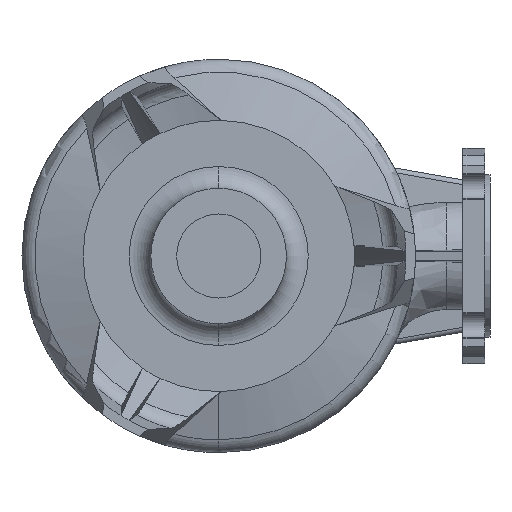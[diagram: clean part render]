
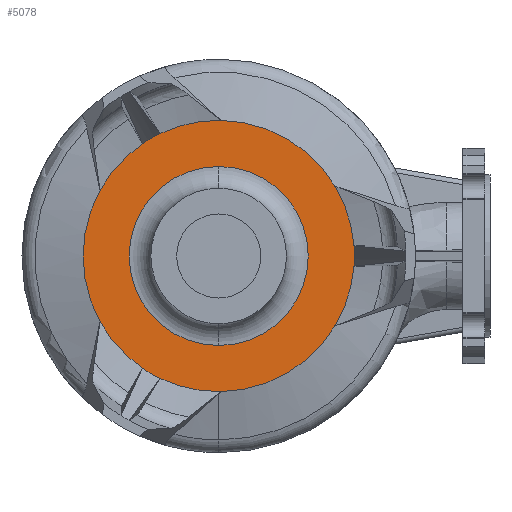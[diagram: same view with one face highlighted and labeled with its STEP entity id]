
A CAD part, front view. The second image highlights one B-rep face of the part: STEP entity #5078.
In plain terms, the highlighted planar face has unit normal (0, -1, 0).
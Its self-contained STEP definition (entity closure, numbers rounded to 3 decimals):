
#95 = EDGE_CURVE ( 'NONE', #7606, #4360, #3509, .T. ) ;
#160 = EDGE_CURVE ( 'NONE', #3057, #7620, #197, .T. ) ;
#197 = CIRCLE ( 'NONE', #5403, 100. ) ;
#241 = CIRCLE ( 'NONE', #7197, 100. ) ;
#257 = CARTESIAN_POINT ( 'NONE',  ( 82.256, -294.025, -51.519 ) ) ;
#329 = AXIS2_PLACEMENT_3D ( 'NONE', #1058, #4339, #10225 ) ;
#338 = PLANE ( 'NONE',  #9262 ) ;
#476 = CARTESIAN_POINT ( 'NONE',  ( -3.452, -294.025, 0. ) ) ;
#525 = CARTESIAN_POINT ( 'NONE',  ( -90.923, -294.025, -48.465 ) ) ;
#600 = CARTESIAN_POINT ( 'NONE',  ( -46.831, -294.025, 90.101 ) ) ;
#608 = EDGE_CURVE ( 'NONE', #4928, #3944, #8526, .T. ) ;
#674 = EDGE_LOOP ( 'NONE', ( #5907, #1671, #9588, #3363, #4002, #5503, #8001, #1332, #7034, #9216, #8118, #10222, #1456 ) ) ;
#708 = CIRCLE ( 'NONE', #1056, 100. ) ;
#773 = CARTESIAN_POINT ( 'NONE',  ( 96.268, -294.025, 7.483 ) ) ;
#785 = CARTESIAN_POINT ( 'NONE',  ( 96.268, -294.025, -7.483 ) ) ;
#1026 = CIRCLE ( 'NONE', #329, 66. ) ;
#1056 = AXIS2_PLACEMENT_3D ( 'NONE', #3914, #2423, #3193 ) ;
#1058 = CARTESIAN_POINT ( 'NONE',  ( -3.452, -294.025, 0. ) ) ;
#1144 = EDGE_CURVE ( 'NONE', #4952, #6709, #3181, .T. ) ;
#1225 = DIRECTION ( 'NONE',  ( 0., -1., 0. ) ) ;
#1245 = CIRCLE ( 'NONE', #10597, 100. ) ;
#1284 = CARTESIAN_POINT ( 'NONE',  ( -3.452, -294.025, 0. ) ) ;
#1332 = ORIENTED_EDGE ( 'NONE', *, *, #1144, .T. ) ;
#1348 = DIRECTION ( 'NONE',  ( 0., 0., 1. ) ) ;
#1381 = DIRECTION ( 'NONE',  ( 0., 1., 0. ) ) ;
#1410 = VERTEX_POINT ( 'NONE', #3821 ) ;
#1452 = CARTESIAN_POINT ( 'NONE',  ( -3.452, -294.025, 0. ) ) ;
#1454 = AXIS2_PLACEMENT_3D ( 'NONE', #476, #3805, #1348 ) ;
#1456 = ORIENTED_EDGE ( 'NONE', *, *, #6136, .T. ) ;
#1529 = DIRECTION ( 'NONE',  ( 0., 0., 1. ) ) ;
#1671 = ORIENTED_EDGE ( 'NONE', *, *, #160, .F. ) ;
#1801 = VERTEX_POINT ( 'NONE', #773 ) ;
#2095 = DIRECTION ( 'NONE',  ( 0., -1., 0. ) ) ;
#2169 = CARTESIAN_POINT ( 'NONE',  ( -3.452, -294.025, 66. ) ) ;
#2388 = CARTESIAN_POINT ( 'NONE',  ( -3.452, -294.025, 0. ) ) ;
#2423 = DIRECTION ( 'NONE',  ( 0., 1., 0. ) ) ;
#2730 = EDGE_CURVE ( 'NONE', #3057, #5825, #4892, .T. ) ;
#3004 = ORIENTED_EDGE ( 'NONE', *, *, #4129, .T. ) ;
#3057 = VERTEX_POINT ( 'NONE', #7006 ) ;
#3137 = AXIS2_PLACEMENT_3D ( 'NONE', #6042, #5935, #6715 ) ;
#3181 = CIRCLE ( 'NONE', #4916, 100. ) ;
#3193 = DIRECTION ( 'NONE',  ( 0., 0., -1. ) ) ;
#3198 = CIRCLE ( 'NONE', #1454, 100. ) ;
#3216 = EDGE_CURVE ( 'NONE', #7620, #1801, #708, .T. ) ;
#3247 = CARTESIAN_POINT ( 'NONE',  ( 82.256, -294.025, 51.519 ) ) ;
#3363 = ORIENTED_EDGE ( 'NONE', *, *, #7850, .T. ) ;
#3404 = AXIS2_PLACEMENT_3D ( 'NONE', #1452, #7432, #8991 ) ;
#3509 = CIRCLE ( 'NONE', #10416, 100. ) ;
#3528 = DIRECTION ( 'NONE',  ( 0., 0., -1. ) ) ;
#3679 = AXIS2_PLACEMENT_3D ( 'NONE', #1284, #1225, #3528 ) ;
#3777 = DIRECTION ( 'NONE',  ( 0., 0., -1. ) ) ;
#3787 = DIRECTION ( 'NONE',  ( 0., 0., -1. ) ) ;
#3805 = DIRECTION ( 'NONE',  ( 0., -1., 0. ) ) ;
#3821 = CARTESIAN_POINT ( 'NONE',  ( -3.452, -294.025, -66. ) ) ;
#3914 = CARTESIAN_POINT ( 'NONE',  ( -3.452, -294.025, 0. ) ) ;
#3944 = VERTEX_POINT ( 'NONE', #257 ) ;
#4002 = ORIENTED_EDGE ( 'NONE', *, *, #8254, .T. ) ;
#4030 = DIRECTION ( 'NONE',  ( 0., 1., 0. ) ) ;
#4129 = EDGE_CURVE ( 'NONE', #1410, #10431, #9117, .T. ) ;
#4281 = FACE_OUTER_BOUND ( 'NONE', #674, .T. ) ;
#4292 = CIRCLE ( 'NONE', #6532, 100. ) ;
#4339 = DIRECTION ( 'NONE',  ( 0., 1., 0. ) ) ;
#4360 = VERTEX_POINT ( 'NONE', #6782 ) ;
#4390 = CARTESIAN_POINT ( 'NONE',  ( -59.792, -294.025, -82.618 ) ) ;
#4392 = AXIS2_PLACEMENT_3D ( 'NONE', #4968, #5019, #8164 ) ;
#4539 = EDGE_CURVE ( 'NONE', #3944, #8867, #4292, .T. ) ;
#4547 = CARTESIAN_POINT ( 'NONE',  ( -3.452, -294.025, 0. ) ) ;
#4746 = DIRECTION ( 'NONE',  ( 0., -1., 0. ) ) ;
#4881 = CARTESIAN_POINT ( 'NONE',  ( -3.452, -294.025, 0. ) ) ;
#4892 = CIRCLE ( 'NONE', #3679, 100. ) ;
#4916 = AXIS2_PLACEMENT_3D ( 'NONE', #7802, #10233, #8505 ) ;
#4928 = VERTEX_POINT ( 'NONE', #785 ) ;
#4946 = VERTEX_POINT ( 'NONE', #6607 ) ;
#4952 = VERTEX_POINT ( 'NONE', #525 ) ;
#4968 = CARTESIAN_POINT ( 'NONE',  ( -3.452, -294.025, 0. ) ) ;
#5019 = DIRECTION ( 'NONE',  ( 0., 1., 0. ) ) ;
#5078 = ADVANCED_FACE ( 'NONE', ( #8444, #4281 ), #338, .F. ) ;
#5180 = CARTESIAN_POINT ( 'NONE',  ( -69.452, -294.025, 0. ) ) ;
#5403 = AXIS2_PLACEMENT_3D ( 'NONE', #5563, #1381, #3787 ) ;
#5503 = ORIENTED_EDGE ( 'NONE', *, *, #95, .T. ) ;
#5563 = CARTESIAN_POINT ( 'NONE',  ( -3.452, -294.025, 0. ) ) ;
#5795 = CIRCLE ( 'NONE', #4392, 100. ) ;
#5825 = VERTEX_POINT ( 'NONE', #9072 ) ;
#5907 = ORIENTED_EDGE ( 'NONE', *, *, #3216, .F. ) ;
#5935 = DIRECTION ( 'NONE',  ( 0., -1., 0. ) ) ;
#5953 = EDGE_CURVE ( 'NONE', #4946, #8867, #241, .T. ) ;
#6042 = CARTESIAN_POINT ( 'NONE',  ( -3.452, -294.025, 0. ) ) ;
#6136 = EDGE_CURVE ( 'NONE', #4928, #1801, #3198, .T. ) ;
#6409 = CIRCLE ( 'NONE', #8318, 100. ) ;
#6532 = AXIS2_PLACEMENT_3D ( 'NONE', #4547, #9678, #7155 ) ;
#6607 = CARTESIAN_POINT ( 'NONE',  ( -46.831, -294.025, -90.101 ) ) ;
#6709 = VERTEX_POINT ( 'NONE', #4390 ) ;
#6715 = DIRECTION ( 'NONE',  ( 0., 0., 1. ) ) ;
#6730 = CARTESIAN_POINT ( 'NONE',  ( -59.792, -294.025, 82.618 ) ) ;
#6782 = CARTESIAN_POINT ( 'NONE',  ( -90.923, -294.025, 48.465 ) ) ;
#6794 = ORIENTED_EDGE ( 'NONE', *, *, #7723, .T. ) ;
#6913 = CARTESIAN_POINT ( 'NONE',  ( -3.452, -294.025, 0. ) ) ;
#6957 = EDGE_CURVE ( 'NONE', #6709, #4946, #7817, .T. ) ;
#7006 = CARTESIAN_POINT ( 'NONE',  ( -1.689, -294.025, 99.984 ) ) ;
#7034 = ORIENTED_EDGE ( 'NONE', *, *, #6957, .T. ) ;
#7155 = DIRECTION ( 'NONE',  ( 0., 0., -1. ) ) ;
#7197 = AXIS2_PLACEMENT_3D ( 'NONE', #6913, #8470, #7510 ) ;
#7432 = DIRECTION ( 'NONE',  ( 0., 1., 0. ) ) ;
#7510 = DIRECTION ( 'NONE',  ( 0., 0., -1. ) ) ;
#7606 = VERTEX_POINT ( 'NONE', #6730 ) ;
#7620 = VERTEX_POINT ( 'NONE', #3247 ) ;
#7723 = EDGE_CURVE ( 'NONE', #10431, #1410, #1026, .T. ) ;
#7789 = DIRECTION ( 'NONE',  ( 0., 1., 0. ) ) ;
#7802 = CARTESIAN_POINT ( 'NONE',  ( -3.452, -294.025, 0. ) ) ;
#7817 = CIRCLE ( 'NONE', #3137, 100. ) ;
#7850 = EDGE_CURVE ( 'NONE', #5825, #9091, #6409, .T. ) ;
#7934 = EDGE_CURVE ( 'NONE', #4952, #4360, #5795, .T. ) ;
#8001 = ORIENTED_EDGE ( 'NONE', *, *, #7934, .F. ) ;
#8118 = ORIENTED_EDGE ( 'NONE', *, *, #4539, .F. ) ;
#8164 = DIRECTION ( 'NONE',  ( 0., 0., -1. ) ) ;
#8254 = EDGE_CURVE ( 'NONE', #9091, #7606, #1245, .T. ) ;
#8291 = DIRECTION ( 'NONE',  ( 0., 0., -1. ) ) ;
#8318 = AXIS2_PLACEMENT_3D ( 'NONE', #9519, #2095, #10379 ) ;
#8444 = FACE_BOUND ( 'NONE', #9662, .T. ) ;
#8470 = DIRECTION ( 'NONE',  ( 0., -1., 0. ) ) ;
#8505 = DIRECTION ( 'NONE',  ( 0., 0., -1. ) ) ;
#8526 = CIRCLE ( 'NONE', #9732, 100. ) ;
#8553 = DIRECTION ( 'NONE',  ( 0., 0., -1. ) ) ;
#8867 = VERTEX_POINT ( 'NONE', #10112 ) ;
#8991 = DIRECTION ( 'NONE',  ( 0., 0., -1. ) ) ;
#9072 = CARTESIAN_POINT ( 'NONE',  ( -3.452, -294.025, 100. ) ) ;
#9091 = VERTEX_POINT ( 'NONE', #600 ) ;
#9117 = CIRCLE ( 'NONE', #3404, 66. ) ;
#9216 = ORIENTED_EDGE ( 'NONE', *, *, #5953, .T. ) ;
#9262 = AXIS2_PLACEMENT_3D ( 'NONE', #5180, #7789, #8553 ) ;
#9519 = CARTESIAN_POINT ( 'NONE',  ( -3.452, -294.025, 0. ) ) ;
#9588 = ORIENTED_EDGE ( 'NONE', *, *, #2730, .T. ) ;
#9662 = EDGE_LOOP ( 'NONE', ( #3004, #6794 ) ) ;
#9678 = DIRECTION ( 'NONE',  ( 0., 1., 0. ) ) ;
#9732 = AXIS2_PLACEMENT_3D ( 'NONE', #2388, #4030, #3777 ) ;
#9828 = CARTESIAN_POINT ( 'NONE',  ( -3.452, -294.025, 0. ) ) ;
#9973 = DIRECTION ( 'NONE',  ( 0., -1., 0. ) ) ;
#10112 = CARTESIAN_POINT ( 'NONE',  ( -1.689, -294.025, -99.984 ) ) ;
#10222 = ORIENTED_EDGE ( 'NONE', *, *, #608, .F. ) ;
#10225 = DIRECTION ( 'NONE',  ( 0., 0., -1. ) ) ;
#10233 = DIRECTION ( 'NONE',  ( 0., -1., 0. ) ) ;
#10379 = DIRECTION ( 'NONE',  ( 0., 0., -1. ) ) ;
#10416 = AXIS2_PLACEMENT_3D ( 'NONE', #4881, #9973, #8291 ) ;
#10431 = VERTEX_POINT ( 'NONE', #2169 ) ;
#10597 = AXIS2_PLACEMENT_3D ( 'NONE', #9828, #4746, #1529 ) ;
